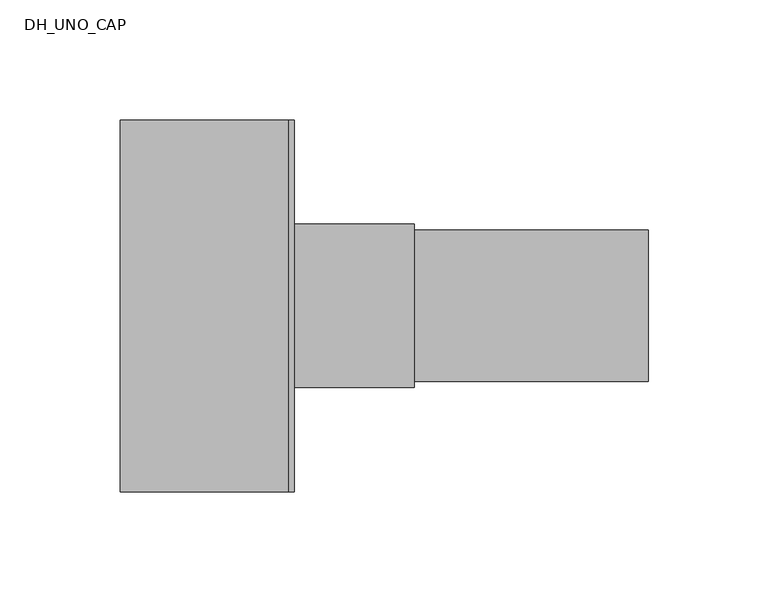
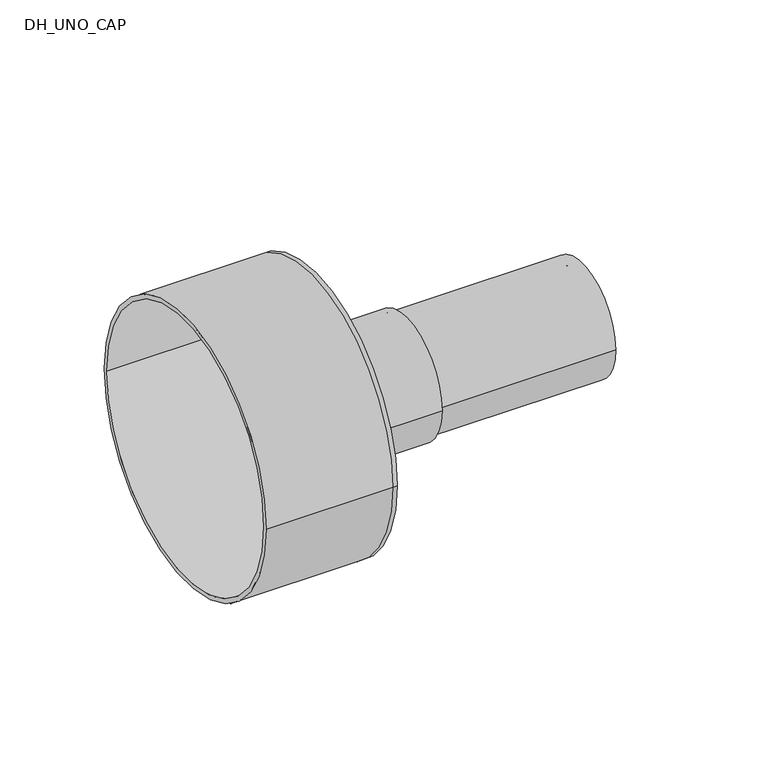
"""IFC4 building model written with IfcOpenShell, lengths in millimetres: pipe fitting geometry, DH_UNO_CAP : RAUVIPEX UNO 11 Heating - Rubber Cap."""

from ifc_helpers import new_model, si_unit, point, frame, origin, origin_2d, place, context, project, spatial, polyline, circle_curve, trimmed, segment, composite_curve, outline, extrude, source, transform, mapped, element, save
from ifc_brep_helpers import plane_surface, cylinder_surface, revolved_surface, advanced_brep


def dh_uno_cap_f6c26f3b(model_context):
    return source(origin(), model_context, "Body", "SolidModel", [
        extrude(outline(composite_curve([segment(trimmed(circle_curve(origin_2d(), 31.5), [point((-31.5, 0.0))], [point((31.5, 0.0))], False, "CARTESIAN"), True, "CONTINUOUS"), segment(trimmed(circle_curve(origin_2d(), 31.5), [point((31.5, 0.0))], [point((-31.5, 0.0))], False, "CARTESIAN"), True, "CONTINUOUS")], self_intersect=False), holes=[composite_curve([segment(trimmed(circle_curve(origin_2d(), 25.7), [point((-25.7, 0.0))], [point((25.7, 0.0))], True, "CARTESIAN"), True, "CONTINUOUS"), segment(trimmed(circle_curve(origin_2d(), 25.7), [point((25.7, 0.0))], [point((-25.7, 0.0))], True, "CARTESIAN"), True, "CONTINUOUS")], self_intersect=False)]), frame((0.0, 0.0, 0.0), z_axis=(1.0, 0.0, 0.0), x_axis=(0.0, 1.0, 0.0)), (0.0, 0.0, 1.0), 150.0),
        advanced_brep(
        [(-70.0, -77.5, 0.0), (-70.0, 77.5, 0.0), (-70.0, -75.0, 0.0), (-70.0, 75.0, 0.0), (0.0, -75.0, 0.0), (0.0, 75.0, 0.0), (0.0, -77.5, 0.0), (0.0, 77.5, 0.0), (0.0, 31.5, 0.0), (0.0, -31.5, 0.0), (2.5, -77.5, 0.0), (2.5, 77.5, 0.0), (2.5, -31.5, 0.0), (2.5, 31.5, 0.0)],
        [
            (0, 1, circle_curve(frame((-70.0, 0.0, 0.0), z_axis=(-1.0, 0.0, 0.0), x_axis=(0.0, 1.0, 0.0)), 77.5)),
            (1, 0, circle_curve(frame((-70.0, 0.0, 0.0), z_axis=(-1.0, 0.0, 0.0), x_axis=(0.0, 1.0, 0.0)), 77.5)),
            (2, 3, circle_curve(frame((-70.0, 0.0, 0.0), z_axis=(1.0, 0.0, 0.0), x_axis=(0.0, 1.0, 0.0)), 75.0)),
            (3, 2, circle_curve(frame((-70.0, 0.0, 0.0), z_axis=(1.0, 0.0, 0.0), x_axis=(0.0, 1.0, 0.0)), 75.0)),
            (2, 4),
            (4, 5, circle_curve(frame((0.0, 0.0, 0.0), z_axis=(1.0, 0.0, 0.0), x_axis=(0.0, 1.0, 0.0)), 75.0)),
            (5, 3),
            (5, 4, circle_curve(frame((0.0, 0.0, 0.0), z_axis=(1.0, 0.0, 0.0), x_axis=(0.0, 1.0, 0.0)), 75.0)),
            (0, 6),
            (6, 7, circle_curve(frame((0.0, 0.0, 0.0), z_axis=(-1.0, 0.0, 0.0), x_axis=(0.0, 1.0, 0.0)), 77.5)),
            (7, 1),
            (7, 6, circle_curve(frame((0.0, 0.0, 0.0), z_axis=(-1.0, 0.0, 0.0), x_axis=(0.0, 1.0, 0.0)), 77.5)),
            (8, 9, circle_curve(frame((0.0, 0.0, 0.0), z_axis=(1.0, 0.0, 0.0), x_axis=(0.0, 1.0, 0.0)), 31.5)),
            (9, 8, circle_curve(frame((0.0, 0.0, 0.0), z_axis=(1.0, 0.0, 0.0), x_axis=(0.0, 1.0, 0.0)), 31.5)),
            (10, 11, circle_curve(frame((2.5, 0.0, 0.0), z_axis=(1.0, 0.0, 0.0), x_axis=(0.0, 1.0, 0.0)), 77.5)),
            (11, 10, circle_curve(frame((2.5, 0.0, 0.0), z_axis=(1.0, 0.0, 0.0), x_axis=(0.0, 1.0, 0.0)), 77.5)),
            (12, 13, circle_curve(frame((2.5, 0.0, 0.0), z_axis=(-1.0, 0.0, 0.0), x_axis=(0.0, 1.0, 0.0)), 31.5)),
            (13, 12, circle_curve(frame((2.5, 0.0, 0.0), z_axis=(-1.0, 0.0, 0.0), x_axis=(0.0, 1.0, 0.0)), 31.5)),
            (11, 7),
            (6, 10),
            (8, 13),
            (12, 9),
        ],
        [
            plane_surface(frame((-70.0, 0.0, 0.0), z_axis=(-1.0, 0.0, 0.0), x_axis=(0.0, 0.0, 1.0))),
            revolved_surface(polyline([(0.0, 75.0, 0.0), (-70.0, 75.0, 0.0)]), (-70.0, 0.0, 0.0), (1.0, 0.0, 0.0)),
            cylinder_surface(frame((-70.0, 0.0, 0.0), z_axis=(-1.0, 0.0, 0.0), x_axis=(0.0, 1.0, 0.0)), 77.5),
            plane_surface(frame((0.0, 0.0, 0.0), z_axis=(-1.0, 0.0, 0.0), x_axis=(0.0, 0.0, 1.0))),
            plane_surface(frame((2.5, 0.0, 0.0), z_axis=(1.0, 0.0, 0.0), x_axis=(0.0, 0.0, 1.0))),
            cylinder_surface(frame((0.0, 0.0, 0.0), z_axis=(-1.0, 0.0, 0.0), x_axis=(0.0, 1.0, 0.0)), 77.5),
            revolved_surface(polyline([(0.0, 31.5, 0.0), (2.5, 31.5, 0.0)]), (0.0, 0.0, 0.0), (-1.0, 0.0, 0.0)),
        ],
        [
            (0, [[1, 2], [3, 4]]),
            (1, [[-3, 5, 6, 7]]),
            (1, [[-4, -7, 8, -5]]),
            (2, [[-1, 9, 10, 11]]),
            (2, [[-2, -11, 12, -9]]),
            (3, [[-6, -8], [13, 14]]),
            (4, [[15, 16], [17, 18]]),
            (5, [[-16, 19, -10, 20]]),
            (5, [[-15, -20, -12, -19]]),
            (6, [[21, -17, 22, -13]]),
            (6, [[-21, -14, -22, -18]]),
        ],
    ),
        extrude(outline(composite_curve([segment(trimmed(circle_curve(origin_2d(), 34.0), [point((-34.0, 0.0))], [point((34.0, 0.0))], False, "CARTESIAN"), True, "CONTINUOUS"), segment(trimmed(circle_curve(origin_2d(), 34.0), [point((34.0, 0.0))], [point((-34.0, 0.0))], False, "CARTESIAN"), True, "CONTINUOUS")], self_intersect=False), holes=[composite_curve([segment(trimmed(circle_curve(origin_2d(), 31.5), [point((-31.5, 0.0))], [point((31.5, 0.0))], True, "CARTESIAN"), True, "CONTINUOUS"), segment(trimmed(circle_curve(origin_2d(), 31.5), [point((31.5, 0.0))], [point((-31.5, 0.0))], True, "CARTESIAN"), True, "CONTINUOUS")], self_intersect=False)]), frame((2.5, 0.0, 0.0), z_axis=(1.0, 0.0, 0.0), x_axis=(0.0, 1.0, 0.0)), (0.0, 0.0, 1.0), 50.0),
    ])


if __name__ == "__main__":
    model = new_model("IFC4")
    model_context = context("Model", 3, world=origin())
    ifc_project = project(units=[si_unit("LENGTHUNIT", "METRE", prefix="MILLI")], contexts=[model_context])
    site = spatial("IfcSite", under=ifc_project)
    building = spatial("IfcBuilding", under=site)
    placement = place(None, origin())
    dh_uno_cap_shape = dh_uno_cap_f6c26f3b(model_context)
    element("IfcPipeFitting", 1, ObjectType="DH_UNO_CAP : RAUVIPEX UNO 11 Heating - Rubber Cap", at=placement, inside=building, context=model_context, shape_type="MappedRepresentation", body=[
        mapped(dh_uno_cap_shape, transform((0.0, 0.0, 0.0), x_axis=(1.0, 0.0, 0.0), y_axis=(0.0, 1.0, 0.0), z_axis=(0.0, 0.0, 1.0))),
    ])
    save(model, "model.ifc")
